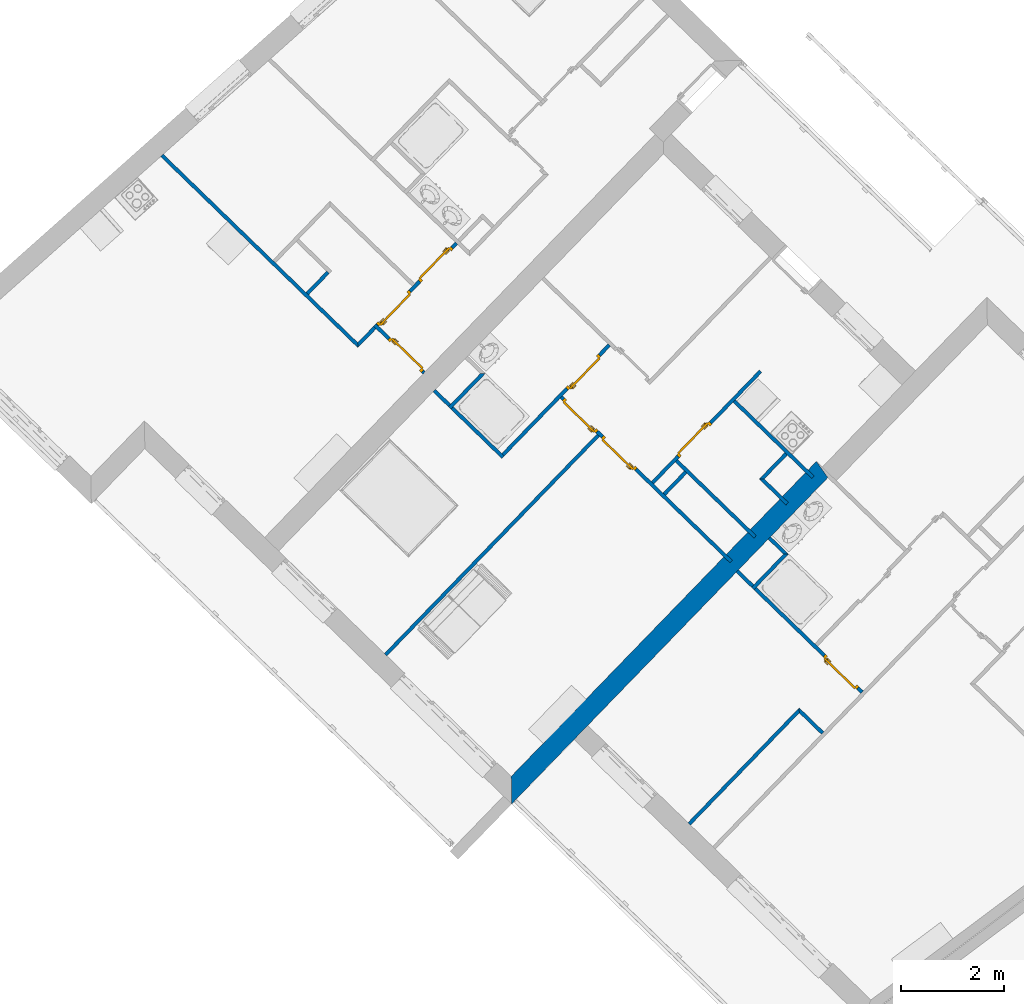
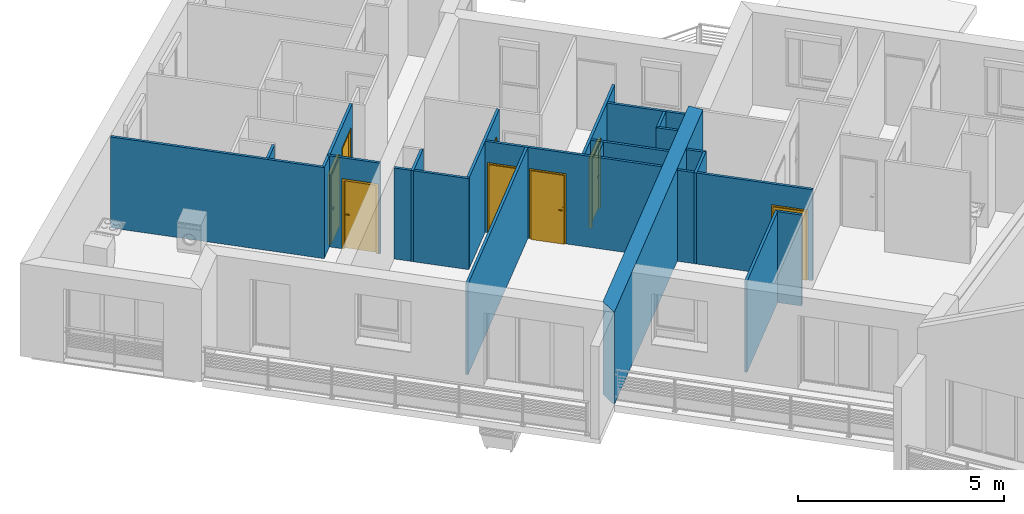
# One storey, part 12 of 121: 21 walls, 8 doors, 8 openings.
"""IFC2X3 building model written with IfcOpenShell, lengths in metres."""

from ifc_helpers import new_model, entity, si_unit, converted_unit, derived_unit, money_unit, direction, frame, origin_with_axes, origin_2d_with_axis, place, context, subcontext, project, spatial, polyline, rectangle, outline, extrude, faceted_brep, source, transform, mapped, material, layer, layer_set, layer_usage, type_object, element, fill, save


model = new_model("IFC2X3")

# Units and contexts
model_context = context("Model", 3, precision=1e-05, world=origin_with_axes(), true_north=direction((0.0, 1.0)))
body_context = subcontext(model_context, "Body", "Model", "MODEL_VIEW")
ifc_project = project(units=[si_unit("LENGTHUNIT", "METRE"), si_unit("AREAUNIT", "SQUARE_METRE"), si_unit("VOLUMEUNIT", "CUBIC_METRE"), converted_unit("PLANEANGLEUNIT", "DEGREE", entity("IfcPlaneAngleMeasure", 0.0174532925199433), si_unit("PLANEANGLEUNIT", "RADIAN"), dimensions=[0, 0, 0, 0, 0, 0, 0]), money_unit("CHF"), converted_unit("TIMEUNIT", "Year", entity("IfcTimeMeasure", 31557600.0), si_unit("TIMEUNIT", "SECOND"), dimensions=[0, 0, 1, 0, 0, 0, 0]), si_unit("MASSUNIT", "GRAM", prefix="KILO"), si_unit("THERMODYNAMICTEMPERATUREUNIT", "DEGREE_CELSIUS"), si_unit("LUMINOUSINTENSITYUNIT", "LUMEN"), si_unit("ENERGYUNIT", "JOULE", prefix="MEGA"), derived_unit("THERMALCONDUCTANCEUNIT", [(si_unit("POWERUNIT", "WATT"), 1), (si_unit("LENGTHUNIT", "METRE"), -1), (si_unit("THERMODYNAMICTEMPERATUREUNIT", "KELVIN"), -1)]), derived_unit("SPECIFICHEATCAPACITYUNIT", [(si_unit("ENERGYUNIT", "JOULE"), 1), (si_unit("MASSUNIT", "GRAM", prefix="KILO"), -1), (si_unit("THERMODYNAMICTEMPERATUREUNIT", "KELVIN"), -1)]), derived_unit("MASSDENSITYUNIT", [(si_unit("MASSUNIT", "GRAM", prefix="KILO"), 1), (si_unit("VOLUMEUNIT", "CUBIC_METRE"), -1)])], contexts=[model_context])

# Site, building, storey
site_placement = place(None, origin_with_axes())
site = spatial("IfcSite", under=ifc_project, at=site_placement, Name="Site", CompositionType="ELEMENT")
building_placement = place(site_placement, origin_with_axes())
building = spatial("IfcBuilding", under=site, at=building_placement, Name="Bâtiment", CompositionType="ELEMENT")
storey_placement = place(building_placement, frame((0.0, 0.0, 2.75), z_axis=(0.0, 0.0, 1.0), x_axis=(1.0, 0.0, 0.0)))
storey = spatial("IfcBuildingStorey", under=building, at=storey_placement, Name="Etage 1", CompositionType="ELEMENT", Elevation=2.75)

# Wall, opening, door
ifc_material_1 = material(Name="Hachure solide 268963992")
ifc_layer_1 = layer(ifc_material_1, 0.07, ventilated="UNKNOWN")
ifc_layer_set_1 = layer_set([ifc_layer_1], Name="Cloison 70 0826278243")
ifc_layer_usage_1 = layer_usage(ifc_layer_set_1, "AXIS2", "POSITIVE", 0.0)
wall_type_1 = type_object("IfcWallType", Name="Cloison 70 0826278243 70", PredefinedType="NOTDEFINED")
wall_1_placement = place(storey_placement, frame((9521.042866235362, -1063.008777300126, 57.7), z_axis=(0.0, 0.0, 1.0), x_axis=(-0.7181763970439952, 0.6958610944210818, 0.0)))
wall_1 = element("IfcWallStandardCase", 1, at=wall_1_placement, inside=storey, type_object=wall_type_1, material=ifc_layer_usage_1, Name="Mur-149", context=body_context, shape_type="SweptSolid", body=[
    extrude(outline(polyline([(-2.791011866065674e-10, 0.0), (1.340122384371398, 0.0), (1.340122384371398, 0.06999999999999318), (-2.737579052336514e-10, 0.06999999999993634), (-2.791011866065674e-10, 0.0)])), origin_with_axes(), (0.0, 0.0, 1.0), 2.7),
])
opening_1_placement = place(wall_1_placement, frame((0.5005577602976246, 0.0, 0.0), z_axis=(0.0, 0.0, 1.0), x_axis=(1.0, 0.0, 0.0)))
opening_1 = element("IfcOpeningElement", 2, at=opening_1_placement, cuts=wall_1, Name="Por-309", context=body_context, shape_type="SweptSolid", body=[
    extrude(rectangle(XDim=0.9099999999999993, YDim=2.079999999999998, at=origin_2d_with_axis()), frame((0.0, 0.06999999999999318, 1.039999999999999), z_axis=(0.0, -1.0, 0.0), x_axis=(-1.0, 0.0, 0.0)), (0.0, 0.0, 1.0), 0.14),
])
door_style = type_object("IfcDoorStyle", Name="Porte_1v", ConstructionType="NOTDEFINED", OperationType="NOTDEFINED", ParameterTakesPrecedence=False, Sizeable=False)
shared_shape_1 = source(origin_with_axes(), body_context, "Body", "Brep", [
    faceted_brep([(0.455, 0.0, 0.0), (0.415, 0.0, 0.0), (0.415, 0.0, 2.04), (-0.415, 0.0, 2.04), (-0.415, 0.0, 0.0), (-0.455, 0.0, 0.0), (-0.455, 0.0, 2.08), (0.455, 0.0, 2.08), (0.455, -0.07, 0.0), (0.4, -0.07, 0.0), (0.4, -0.015, 0.0), (0.415, -0.015, 0.0), (0.415, -0.015, 2.04), (-0.415, -0.015, 2.04), (-0.415, -0.015, 0.0), (-0.4, -0.015, 0.0), (-0.4, -0.07, 0.0), (-0.455, -0.07, 0.0), (-0.455, -0.07, 2.08), (0.455, -0.07, 2.08), (-0.4, -0.07, 2.025), (0.4, -0.07, 2.025), (0.4, -0.015, 2.025), (-0.4, -0.015, 2.025)], [[[0, 1, 2, 3, 4, 5, 6, 7]], [[0, 8, 9, 10, 11, 1]], [[1, 11, 12, 2]], [[2, 12, 13, 3]], [[3, 13, 14, 4]], [[5, 4, 14, 15, 16, 17]], [[18, 6, 5, 17]], [[19, 7, 6, 18]], [[8, 0, 7, 19]], [[9, 8, 19, 18, 17, 16, 20, 21]], [[10, 9, 21, 22]], [[11, 10, 22, 23, 15, 14, 13, 12]], [[23, 20, 16, 15]], [[22, 21, 20, 23]]]),
    faceted_brep([(-0.35, -0.015, 0.9), (-0.39, -0.015, 0.9), (-0.39, -0.015, 1.1), (-0.35, -0.015, 1.1), (-0.35, -0.025, 0.9), (-0.39, -0.025, 0.9), (-0.39, -0.025, 1.1), (-0.35, -0.025, 1.1)], [[[0, 1, 2, 3]], [[1, 0, 4, 5]], [[2, 1, 5, 6]], [[3, 2, 6, 7]], [[0, 3, 7, 4]], [[5, 4, 7, 6]]]),
    faceted_brep([(-0.28, -0.025, 1.0), (-0.38, -0.025, 1.0), (-0.38, -0.025, 1.02), (-0.28, -0.025, 1.02), (-0.28, -0.045, 1.0), (-0.38, -0.045, 1.0), (-0.38, -0.045, 1.02), (-0.28, -0.045, 1.02)], [[[0, 1, 2, 3]], [[1, 0, 4, 5]], [[2, 1, 5, 6]], [[3, 2, 6, 7]], [[0, 3, 7, 4]], [[5, 4, 7, 6]]]),
    faceted_brep([(-0.35, 0.035, 0.9), (-0.39, 0.035, 0.9), (-0.39, 0.035, 1.1), (-0.35, 0.035, 1.1), (-0.35, 0.025, 0.9), (-0.39, 0.025, 0.9), (-0.39, 0.025, 1.1), (-0.35, 0.025, 1.1)], [[[0, 1, 2, 3]], [[1, 0, 4, 5]], [[2, 1, 5, 6]], [[3, 2, 6, 7]], [[0, 3, 7, 4]], [[5, 4, 7, 6]]]),
    faceted_brep([(-0.28, 0.05500000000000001, 1.0), (-0.38, 0.05500000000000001, 1.0), (-0.38, 0.05500000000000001, 1.02), (-0.28, 0.05500000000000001, 1.02), (-0.28, 0.035, 1.0), (-0.38, 0.035, 1.0), (-0.38, 0.035, 1.02), (-0.28, 0.035, 1.02)], [[[0, 1, 2, 3]], [[1, 0, 4, 5]], [[2, 1, 5, 6]], [[3, 2, 6, 7]], [[0, 3, 7, 4]], [[5, 4, 7, 6]]]),
    faceted_brep([(-0.415, 0.025, 0.0), (0.415, 0.025, 0.0), (0.415, -0.015, 0.0), (-0.415, -0.015, 0.0), (-0.415, 0.025, 2.04), (0.415, 0.025, 2.04), (0.415, -0.015, 2.04), (-0.415, -0.015, 2.04)], [[[0, 1, 2, 3]], [[0, 4, 5, 1]], [[1, 5, 6, 2]], [[3, 2, 6, 7]], [[4, 0, 3, 7]], [[5, 4, 7, 6]]]),
])
door_1_placement = place(opening_1_placement, frame((0.415000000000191, 0.0, 0.0), z_axis=(0.0, 0.0, 1.0), x_axis=(-1.0, 0.0, 0.0)))
door_1 = element("IfcDoor", 3, at=door_1_placement, inside=storey, type_object=door_style, Name="Por-309", OverallHeight=2.04, OverallWidth=0.83, context=body_context, shape_type="MappedRepresentation", body=[
    mapped(shared_shape_1, transform((0.415000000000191, 0.0, 0.0))),
])
fill(opening_1, door_1)

# Walls
ifc_layer_usage_2 = layer_usage(ifc_layer_set_1, "AXIS2", "POSITIVE", 0.0)
wall_2_placement = place(storey_placement, frame((9522.11450940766, -1063.048129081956, 57.7), z_axis=(0.0, 0.0, 1.0), x_axis=(-0.6958610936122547, -0.7181763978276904, 0.0)))
element("IfcWallStandardCase", 4, at=wall_2_placement, inside=storey, type_object=wall_type_1, material=ifc_layer_usage_2, Name="Mur-149", context=body_context, shape_type="SweptSolid", body=[
    extrude(outline(polyline([(1.618900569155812e-10, 0.0), (0.9000166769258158, 0.0), (0.9000166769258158, 0.07000000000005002), (-0.06999999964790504, 0.07000000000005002), (1.618900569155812e-10, 0.0)])), origin_with_axes(), (0.0, 0.0, 1.0), 2.7),
])
ifc_layer_usage_3 = layer_usage(ifc_layer_set_1, "AXIS2", "POSITIVE", 0.0)
wall_3_placement = place(storey_placement, frame((9527.494752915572, -1066.208275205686, 57.7), z_axis=(0.0, 0.0, 1.0), x_axis=(-0.7181763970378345, 0.6958610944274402, 0.0)))
element("IfcWallStandardCase", 5, at=wall_3_placement, inside=storey, type_object=wall_type_1, material=ifc_layer_usage_3, Name="Mur-149", context=body_context, shape_type="SweptSolid", body=[
    extrude(outline(polyline([(0.0, 0.0), (2.135506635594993, 0.0), (2.13550663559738, 0.06999999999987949), (0.0, 0.06999999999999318), (0.0, 0.0)])), origin_with_axes(), (0.0, 0.0, 1.0), 2.7),
])
ifc_layer_usage_4 = layer_usage(ifc_layer_set_1, "AXIS2", "POSITIVE", 0.0)
wall_4_placement = place(storey_placement, frame((9526.140626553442, -1064.896224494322, 57.7), z_axis=(0.0, 0.0, 1.0), x_axis=(-0.6958610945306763, -0.7181763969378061, 0.0)))
element("IfcWallStandardCase", 6, at=wall_4_placement, inside=storey, type_object=wall_type_1, material=ifc_layer_usage_4, Name="Mur-149", context=body_context, shape_type="SweptSolid", body=[
    extrude(outline(polyline([(0.07000000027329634, 0.0), (0.670000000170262, 0.0), (0.6700000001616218, 0.07000000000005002), (0.07000000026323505, 0.07000000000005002), (0.07000000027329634, 0.0)])), origin_with_axes(), (0.0, 0.0, 1.0), 2.7),
])
ifc_layer_usage_5 = layer_usage(ifc_layer_set_1, "AXIS2", "POSITIVE", 0.0)
wall_5_placement = place(storey_placement, frame((9522.580226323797, -1064.655080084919, 57.7), z_axis=(0.0, 0.0, 1.0), x_axis=(-0.718176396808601, 0.6958610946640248, 0.0)))
element("IfcWallStandardCase", 7, at=wall_5_placement, inside=storey, type_object=wall_type_1, material=ifc_layer_usage_5, Name="Mur-149", context=body_context, shape_type="SweptSolid", body=[
    extrude(outline(polyline([(0.0, 0.0), (1.869694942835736, 0.0), (1.869694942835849, 0.06999999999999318), (0.0, 0.06999999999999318), (0.0, 0.0)])), origin_with_axes(), (0.0, 0.0, 1.0), 2.7),
])

# Wall, openings, doors
ifc_layer_usage_6 = layer_usage(ifc_layer_set_1, "AXIS2", "POSITIVE", 0.0)
wall_6_placement = place(storey_placement, frame((9527.028525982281, -1066.689453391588, 57.7), z_axis=(0.0, 0.0, 1.0), x_axis=(-0.7181763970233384, 0.6958610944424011, 0.0)))
wall_6 = element("IfcWallStandardCase", 8, at=wall_6_placement, inside=storey, type_object=wall_type_1, material=ifc_layer_usage_6, Name="Mur-149", context=body_context, shape_type="SweptSolid", body=[
    extrude(outline(polyline([(0.0, 0.0), (4.682283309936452, 0.0), (4.682283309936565, 0.07000000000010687), (0.0, 0.06999999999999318), (0.0, 0.0)])), origin_with_axes(), (0.0, 0.0, 1.0), 2.7),
])
opening_2_placement = place(wall_6_placement, frame((4.093552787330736, 0.0, 0.0), z_axis=(0.0, 0.0, 1.0), x_axis=(1.0, 0.0, 0.0)))
opening_2 = element("IfcOpeningElement", 9, at=opening_2_placement, cuts=wall_6, Name="Por-310", context=body_context, shape_type="SweptSolid", body=[
    extrude(rectangle(XDim=0.9099999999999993, YDim=2.079999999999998, at=origin_2d_with_axis()), frame((0.0, -0.07000000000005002, 1.039999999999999), z_axis=(0.0, 1.0, 0.0), x_axis=(1.0, 0.0, 0.0)), (0.0, 0.0, 1.0), 0.14),
])
opening_3_placement = place(wall_6_placement, frame((3.043617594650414, 0.0, 0.0), z_axis=(0.0, 0.0, 1.0), x_axis=(1.0, 0.0, 0.0)))
opening_3 = element("IfcOpeningElement", 10, at=opening_3_placement, cuts=wall_6, Name="Por-310", context=body_context, shape_type="SweptSolid", body=[
    extrude(rectangle(XDim=0.9099999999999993, YDim=2.079999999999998, at=origin_2d_with_axis()), frame((0.0, -0.07000000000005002, 1.039999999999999), z_axis=(0.0, 1.0, 0.0), x_axis=(1.0, 0.0, 0.0)), (0.0, 0.0, 1.0), 0.14),
])
door_2_placement = place(opening_3_placement, frame((-0.4149999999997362, 0.0, 0.0), z_axis=(0.0, 0.0, 1.0), x_axis=(1.0, 0.0, 0.0)))
door_2 = element("IfcDoor", 11, at=door_2_placement, inside=storey, type_object=door_style, Name="Por-310", OverallHeight=2.04, OverallWidth=0.83, context=body_context, shape_type="MappedRepresentation", body=[
    mapped(shared_shape_1, transform((0.4150000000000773, 0.07000000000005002, 0.0))),
])
fill(opening_3, door_2)
door_3_placement = place(opening_2_placement, frame((-0.4149999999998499, 0.0, 0.0), z_axis=(0.0, 0.0, 1.0), x_axis=(1.0, 0.0, 0.0)))
door_3 = element("IfcDoor", 12, at=door_3_placement, inside=storey, type_object=door_style, Name="Por-310", OverallHeight=2.04, OverallWidth=0.83, context=body_context, shape_type="MappedRepresentation", body=[
    mapped(shared_shape_1, transform((0.4149999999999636, 0.06999999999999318, 0.0))),
])
fill(opening_2, door_3)

# Wall
ifc_layer_usage_7 = layer_usage(ifc_layer_set_1, "AXIS2", "POSITIVE", 0.0)
wall_7_placement = place(storey_placement, frame((9528.09928202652, -1064.538307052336, 57.7), z_axis=(0.0, 0.0, 1.0), x_axis=(-0.695861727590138, -0.7181757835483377, 0.0)))
element("IfcWallStandardCase", 13, at=wall_7_placement, inside=storey, type_object=wall_type_1, material=ifc_layer_usage_7, Name="Mur-149", context=body_context, shape_type="SweptSolid", body=[
    extrude(outline(polyline([(0.07000000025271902, 0.0), (0.7890858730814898, 0.0), (0.7190858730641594, 0.07000000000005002), (0.06999993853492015, 0.07000000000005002), (0.07000000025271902, 0.0)])), origin_with_axes(), (0.0, 0.0, 1.0), 2.7),
])

# Wall, openings, doors
ifc_layer_usage_8 = layer_usage(ifc_layer_set_1, "AXIS2", "POSITIVE", 0.0)
wall_8_placement = place(storey_placement, frame((9519.773051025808, -1062.494060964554, 57.7), z_axis=(0.0, 0.0, 1.0), x_axis=(0.69586109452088, 0.7181763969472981, 0.0)))
wall_8 = element("IfcWallStandardCase", 14, at=wall_8_placement, inside=storey, type_object=wall_type_1, material=ifc_layer_usage_8, Name="Mur-149", context=body_context, shape_type="SweptSolid", body=[
    extrude(outline(polyline([(-0.06999999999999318, 0.0), (2.729999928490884, 0.0), (2.729999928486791, 0.06999999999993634), (-9.135874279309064e-10, 0.06999999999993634), (-0.06999999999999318, 0.0)])), origin_with_axes(), (0.0, 0.0, 1.0), 2.7),
])
opening_4_placement = place(wall_8_placement, frame((0.9704286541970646, 0.0, 0.0), z_axis=(0.0, 0.0, 1.0), x_axis=(1.0, 0.0, 0.0)))
opening_4 = element("IfcOpeningElement", 15, at=opening_4_placement, cuts=wall_8, Name="Por-308", context=body_context, shape_type="SweptSolid", body=[
    extrude(rectangle(XDim=0.9099999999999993, YDim=2.079999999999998, at=origin_2d_with_axis()), frame((0.0, 0.06999999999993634, 1.039999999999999), z_axis=(0.0, 1.0, 0.0), x_axis=(1.0, 0.0, 0.0)), (0.0, 0.0, -1.0), 0.14),
])
opening_5_placement = place(wall_8_placement, frame((2.150722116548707, 0.0, 0.0), z_axis=(0.0, 0.0, 1.0), x_axis=(1.0, 0.0, 0.0)))
opening_5 = element("IfcOpeningElement", 16, at=opening_5_placement, cuts=wall_8, Name="Por-308", context=body_context, shape_type="SweptSolid", body=[
    extrude(rectangle(XDim=0.9099999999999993, YDim=2.079999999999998, at=origin_2d_with_axis()), frame((0.0, -0.07000000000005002, 1.039999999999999), z_axis=(0.0, -1.0, 0.0), x_axis=(-1.0, 0.0, 0.0)), (0.0, 0.0, -1.0), 0.14),
])
shared_shape_2 = source(origin_with_axes(), body_context, "Body", "Brep", [
    faceted_brep([(-0.455, 0.0, 0.0), (-0.455, 0.0, 2.08), (0.455, 0.0, 2.08), (0.455, 0.0, 0.0), (0.415, 0.0, 0.0), (0.415, 0.0, 2.04), (-0.415, 0.0, 2.04), (-0.415, 0.0, 0.0), (-0.455, -0.07, 0.0), (-0.455, -0.07, 2.08), (0.455, -0.07, 2.08), (0.455, -0.07, 0.0), (0.4, -0.07, 0.0), (0.4, -0.015, 0.0), (0.415, -0.015, 0.0), (0.415, -0.015, 2.04), (-0.415, -0.015, 2.04), (-0.415, -0.015, 0.0), (-0.4, -0.015, 0.0), (-0.4, -0.07, 0.0), (-0.4, -0.07, 2.025), (0.4, -0.07, 2.025), (0.4, -0.015, 2.025), (-0.4, -0.015, 2.025)], [[[0, 1, 2, 3, 4, 5, 6, 7]], [[8, 9, 1, 0]], [[9, 10, 2, 1]], [[10, 11, 3, 2]], [[3, 11, 12, 13, 14, 4]], [[5, 4, 14, 15]], [[6, 5, 15, 16]], [[7, 6, 16, 17]], [[0, 7, 17, 18, 19, 8]], [[19, 20, 21, 12, 11, 10, 9, 8]], [[22, 13, 12, 21]], [[17, 16, 15, 14, 13, 22, 23, 18]], [[18, 23, 20, 19]], [[23, 22, 21, 20]]]),
    faceted_brep([(0.35, -0.015, 0.9), (0.35, -0.015, 1.1), (0.39, -0.015, 1.1), (0.39, -0.015, 0.9), (0.35, -0.025, 0.9), (0.35, -0.025, 1.1), (0.39, -0.025, 1.1), (0.39, -0.025, 0.9)], [[[0, 1, 2, 3]], [[0, 4, 5, 1]], [[1, 5, 6, 2]], [[2, 6, 7, 3]], [[3, 7, 4, 0]], [[7, 6, 5, 4]]]),
    faceted_brep([(0.28, -0.025, 1.0), (0.28, -0.025, 1.02), (0.38, -0.025, 1.02), (0.38, -0.025, 1.0), (0.28, -0.045, 1.0), (0.28, -0.045, 1.02), (0.38, -0.045, 1.02), (0.38, -0.045, 1.0)], [[[0, 1, 2, 3]], [[0, 4, 5, 1]], [[1, 5, 6, 2]], [[2, 6, 7, 3]], [[3, 7, 4, 0]], [[7, 6, 5, 4]]]),
    faceted_brep([(0.35, 0.035, 0.9), (0.35, 0.035, 1.1), (0.39, 0.035, 1.1), (0.39, 0.035, 0.9), (0.35, 0.025, 0.9), (0.35, 0.025, 1.1), (0.39, 0.025, 1.1), (0.39, 0.025, 0.9)], [[[0, 1, 2, 3]], [[0, 4, 5, 1]], [[1, 5, 6, 2]], [[2, 6, 7, 3]], [[3, 7, 4, 0]], [[7, 6, 5, 4]]]),
    faceted_brep([(0.28, 0.05500000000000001, 1.0), (0.28, 0.05500000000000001, 1.02), (0.38, 0.05500000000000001, 1.02), (0.38, 0.05500000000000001, 1.0), (0.28, 0.035, 1.0), (0.28, 0.035, 1.02), (0.38, 0.035, 1.02), (0.38, 0.035, 1.0)], [[[0, 1, 2, 3]], [[0, 4, 5, 1]], [[1, 5, 6, 2]], [[2, 6, 7, 3]], [[3, 7, 4, 0]], [[7, 6, 5, 4]]]),
    faceted_brep([(0.415, 0.025, 0.0), (0.415, -0.015, 0.0), (-0.415, -0.015, 0.0), (-0.415, 0.025, 0.0), (0.415, 0.025, 2.04), (0.415, -0.015, 2.04), (-0.415, -0.015, 2.04), (-0.415, 0.025, 2.04)], [[[0, 1, 2, 3]], [[4, 5, 1, 0]], [[1, 5, 6, 2]], [[3, 2, 6, 7]], [[0, 3, 7, 4]], [[7, 6, 5, 4]]]),
])
door_4_placement = place(opening_4_placement, frame((0.4149999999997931, 0.0, 0.0), z_axis=(0.0, 0.0, 1.0), x_axis=(-1.0, 0.0, 0.0)))
door_4 = element("IfcDoor", 17, at=door_4_placement, inside=storey, type_object=door_style, Name="Por-308", OverallHeight=2.04, OverallWidth=0.83, context=body_context, shape_type="MappedRepresentation", body=[
    mapped(shared_shape_2, transform((0.4150000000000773, 0.0, 0.0))),
])
fill(opening_4, door_4)
door_5_placement = place(opening_5_placement, frame((-0.4149999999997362, 0.0, 0.0), z_axis=(0.0, 0.0, 1.0), x_axis=(1.0, 0.0, 0.0)))
door_5 = element("IfcDoor", 18, at=door_5_placement, inside=storey, type_object=door_style, Name="Por-308", OverallHeight=2.04, OverallWidth=0.83, context=body_context, shape_type="MappedRepresentation", body=[
    mapped(shared_shape_2, transform((0.4150000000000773, 0.07000000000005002, 0.0))),
])
fill(opening_5, door_5)

# Walls
ifc_layer_usage_9 = layer_usage(ifc_layer_set_1, "AXIS2", "POSITIVE", 0.0)
wall_9_placement = place(storey_placement, frame((9519.773051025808, -1062.494060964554, 57.7), z_axis=(0.0, 0.0, 1.0), x_axis=(-0.7181764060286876, 0.6958610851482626, 0.0)))
element("IfcWallStandardCase", 19, at=wall_9_placement, inside=storey, type_object=wall_type_1, material=ifc_layer_usage_9, Name="Mur-149", context=body_context, shape_type="SweptSolid", body=[
    extrude(outline(polyline([(0.07000000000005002, 0.0), (5.349643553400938, 0.0), (5.354833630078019, 0.07000000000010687), (9.135874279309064e-10, 0.07000000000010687), (0.07000000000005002, 0.0)])), origin_with_axes(), (0.0, 0.0, 1.0), 2.7),
])
ifc_layer_usage_10 = layer_usage(ifc_layer_set_1, "AXIS2", "POSITIVE", 0.0)
wall_10_placement = place(storey_placement, frame((9519.16531050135, -1061.001407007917, 57.7), z_axis=(0.0, 0.0, 1.0), x_axis=(-0.6958610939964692, -0.7181763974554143, 0.0)))
element("IfcWallStandardCase", 20, at=wall_10_placement, inside=storey, type_object=wall_type_1, material=ifc_layer_usage_10, Name="Mur-149", context=body_context, shape_type="SweptSolid", body=[
    extrude(outline(polyline([(0.07000000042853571, 0.0), (0.6490858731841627, 0.0), (0.6490858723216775, 0.07000000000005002), (0.07000000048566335, 0.07000000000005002), (0.07000000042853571, 0.0)])), origin_with_axes(), (0.0, 0.0, 1.0), 2.7),
])
ifc_layer_usage_11 = layer_usage(ifc_layer_set_1, "AXIS2", "POSITIVE", 0.0)
wall_11_placement = place(storey_placement, frame((9528.121663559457, -1065.561260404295, 57.7), z_axis=(0.0, 0.0, 1.0), x_axis=(-0.718175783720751, 0.6958617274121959, 0.0)))
element("IfcWallStandardCase", 21, at=wall_11_placement, inside=storey, type_object=wall_type_1, material=ifc_layer_usage_11, Name="Mur-149", context=body_context, shape_type="SweptSolid", body=[
    extrude(outline(polyline([(0.0, 0.0), (0.6579079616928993, 0.0), (0.7279079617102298, 0.06999999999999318), (0.0, 0.07000000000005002), (0.0, 0.0)])), origin_with_axes(), (0.0, 0.0, 1.0), 2.7),
])

# Wall, opening, door
ifc_layer_usage_12 = layer_usage(ifc_layer_set_1, "AXIS2", "POSITIVE", 0.0)
wall_12_placement = place(storey_placement, frame((9527.551588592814, -1062.980152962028, 57.7), z_axis=(0.0, 0.0, 1.0), x_axis=(-0.6958610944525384, -0.7181763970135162, 0.0)))
wall_12 = element("IfcWallStandardCase", 22, at=wall_12_placement, inside=storey, type_object=wall_type_1, material=ifc_layer_usage_12, Name="Mur-149", context=body_context, shape_type="SweptSolid", body=[
    extrude(outline(polyline([(0.0, 0.0), (3.027910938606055, 0.0), (3.027910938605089, 0.07000000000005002), (0.0, 0.06999999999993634), (0.0, 0.0)])), origin_with_axes(), (0.0, 0.0, 1.0), 2.7),
])
opening_6_placement = place(wall_12_placement, frame((1.855514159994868, 0.0, 0.0), z_axis=(0.0, 0.0, 1.0), x_axis=(1.0, 0.0, 0.0)))
opening_6 = element("IfcOpeningElement", 23, at=opening_6_placement, cuts=wall_12, Name="Por-309", context=body_context, shape_type="SweptSolid", body=[
    extrude(rectangle(XDim=0.9099999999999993, YDim=2.079999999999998, at=origin_2d_with_axis()), frame((0.0, 0.07000000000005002, 1.039999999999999), z_axis=(0.0, 1.0, 0.0), x_axis=(1.0, 0.0, 0.0)), (0.0, 0.0, -1.0), 0.14),
])
door_6_placement = place(opening_6_placement, frame((0.4150000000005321, 0.0, 0.0), z_axis=(0.0, 0.0, 1.0), x_axis=(-1.0, 0.0, 0.0)))
door_6 = element("IfcDoor", 24, at=door_6_placement, inside=storey, type_object=door_style, Name="Por-309", OverallHeight=2.04, OverallWidth=0.83, context=body_context, shape_type="MappedRepresentation", body=[
    mapped(shared_shape_2, transform((0.4150000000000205, 0.0, 0.0))),
])
fill(opening_6, door_6)

ifc_layer_usage_13 = layer_usage(ifc_layer_set_1, "AXIS2", "POSITIVE", 0.0)
wall_13_placement = place(storey_placement, frame((9524.649783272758, -1062.418560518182, 57.7), z_axis=(0.0, 0.0, 1.0), x_axis=(-0.6958610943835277, -0.7181763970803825, 0.0)))
wall_13 = element("IfcWallStandardCase", 25, at=wall_13_placement, inside=storey, type_object=wall_type_1, material=ifc_layer_usage_13, Name="Mur-149", context=body_context, shape_type="SweptSolid", body=[
    extrude(outline(polyline([(0.069999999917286, 0.0), (3.116339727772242, 0.0), (3.116339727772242, 0.06999999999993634), (0.06999999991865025, 0.06999999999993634), (0.069999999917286, 0.0)])), origin_with_axes(), (0.0, 0.0, 1.0), 2.7),
])
opening_7_placement = place(wall_13_placement, frame((0.8014247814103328, 0.0, 0.0), z_axis=(0.0, 0.0, 1.0), x_axis=(1.0, 0.0, 0.0)))
opening_7 = element("IfcOpeningElement", 26, at=opening_7_placement, cuts=wall_13, Name="Por-311", context=body_context, shape_type="SweptSolid", body=[
    extrude(rectangle(XDim=0.9099999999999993, YDim=2.079999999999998, at=origin_2d_with_axis()), frame((0.0, -0.07000000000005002, 1.039999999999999), z_axis=(0.0, -1.0, 0.0), x_axis=(-1.0, 0.0, 0.0)), (0.0, 0.0, -1.0), 0.14),
])
door_7_placement = place(opening_7_placement, frame((-0.4150000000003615, 0.0, 0.0), z_axis=(0.0, 0.0, 1.0), x_axis=(1.0, 0.0, 0.0)))
door_7 = element("IfcDoor", 27, at=door_7_placement, inside=storey, type_object=door_style, Name="Por-311", OverallHeight=2.04, OverallWidth=0.83, context=body_context, shape_type="MappedRepresentation", body=[
    mapped(shared_shape_2, transform((0.4149999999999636, 0.07000000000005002, 0.0))),
])
fill(opening_7, door_7)

# Walls
ifc_layer_usage_14 = layer_usage(ifc_layer_set_1, "AXIS2", "POSITIVE", 0.0)
wall_14_placement = place(storey_placement, frame((9528.811143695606, -1070.03194576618, 57.7), z_axis=(0.0, 0.0, 1.0), x_axis=(-0.7181763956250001, 0.6958610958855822, 0.0)))
element("IfcWallStandardCase", 28, at=wall_14_placement, inside=storey, type_object=wall_type_1, material=ifc_layer_usage_14, Name="Mur-149", context=body_context, shape_type="SweptSolid", body=[
    extrude(outline(polyline([(0.0, 0.0), (0.6700000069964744, 0.0), (0.6000000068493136, 0.06999999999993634), (0.0, 0.07000000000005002), (0.0, 0.0)])), origin_with_axes(), (0.0, 0.0, 1.0), 2.7),
])
ifc_layer_usage_15 = layer_usage(ifc_layer_set_1, "AXIS2", "POSITIVE", 0.0)
wall_15_placement = place(storey_placement, frame((9528.023286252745, -1066.569595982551, 57.7), z_axis=(0.0, 0.0, 1.0), x_axis=(-0.6958610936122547, -0.7181763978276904, 0.0)))
element("IfcWallStandardCase", 29, at=wall_15_placement, inside=storey, type_object=wall_type_1, material=ifc_layer_usage_15, Name="Mur-149", context=body_context, shape_type="SweptSolid", body=[
    extrude(outline(polyline([(0.0, 0.0), (0.9000166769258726, 0.0), (0.9000166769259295, 0.06999999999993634), (-0.06999999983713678, 0.06999999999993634), (0.0, 0.0)])), origin_with_axes(), (0.0, 0.0, 1.0), 2.7),
])
ifc_layer_usage_16 = layer_usage(ifc_layer_set_1, "AXIS2", "POSITIVE", 0.0)
wall_16_placement = place(storey_placement, frame((9524.43583460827, -1064.177322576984, 57.7), z_axis=(0.0, 0.0, 1.0), x_axis=(-0.6958610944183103, -0.7181763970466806, 0.0)))
element("IfcWallStandardCase", 30, at=wall_16_placement, inside=storey, type_object=wall_type_1, material=ifc_layer_usage_16, Name="Mur-149", context=body_context, shape_type="SweptSolid", body=[
    extrude(outline(polyline([(0.07000000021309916, 0.0), (6.02714767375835, 0.0), (6.027147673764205, 0.06999999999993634), (0.07000000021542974, 0.06999999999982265), (0.07000000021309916, 0.0)])), origin_with_axes(), (0.0, 0.0, 1.0), 2.7),
])
ifc_layer_usage_17 = layer_usage(ifc_layer_set_1, "AXIS2", "POSITIVE", 0.0)
wall_17_placement = place(storey_placement, frame((9528.622047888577, -1065.044829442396, 57.7), z_axis=(0.0, 0.0, 1.0), x_axis=(-0.7181763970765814, 0.6958610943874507, 0.0)))
element("IfcWallStandardCase", 31, at=wall_17_placement, inside=storey, type_object=wall_type_1, material=ifc_layer_usage_17, Name="Mur-149", context=body_context, shape_type="SweptSolid", body=[
    extrude(outline(polyline([(0.0, 0.0), (2.135506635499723, 0.0), (2.13550663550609, 0.07000000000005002), (0.0, 0.06999999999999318), (0.0, 0.0)])), origin_with_axes(), (0.0, 0.0, 1.0), 2.7),
])

# Wall, opening, door
ifc_layer_usage_18 = layer_usage(ifc_layer_set_1, "AXIS2", "POSITIVE", 0.0)
wall_18_placement = place(storey_placement, frame((9527.097522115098, -1066.925771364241, 57.7), z_axis=(0.0, 0.0, 1.0), x_axis=(0.718176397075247, -0.6958610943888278, 0.0)))
wall_18 = element("IfcWallStandardCase", 32, at=wall_18_placement, inside=storey, type_object=wall_type_1, material=ifc_layer_usage_18, Name="Mur-149", context=body_context, shape_type="SweptSolid", body=[
    extrude(outline(polyline([(-1.222133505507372e-10, 0.0), (3.392148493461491, 0.0), (3.392148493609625, 0.07000000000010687), (-1.112994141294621e-10, 0.07000000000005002), (-1.222133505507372e-10, 0.0)])), origin_with_axes(), (0.0, 0.0, 1.0), 2.7),
])
opening_8_placement = place(wall_18_placement, frame((2.821361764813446, 0.0, 0.0), z_axis=(0.0, 0.0, 1.0), x_axis=(1.0, 0.0, 0.0)))
opening_8 = element("IfcOpeningElement", 33, at=opening_8_placement, cuts=wall_18, Name="Por-313", context=body_context, shape_type="SweptSolid", body=[
    extrude(rectangle(XDim=0.9099999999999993, YDim=2.079999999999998, at=origin_2d_with_axis()), frame((0.0, 0.06999999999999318, 1.039999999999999), z_axis=(0.0, 1.0, 0.0), x_axis=(1.0, 0.0, 0.0)), (0.0, 0.0, -1.0), 0.14),
])
door_8_placement = place(opening_8_placement, frame((0.4149999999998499, 0.0, 0.0), z_axis=(0.0, 0.0, 1.0), x_axis=(-1.0, 0.0, 0.0)))
door_8 = element("IfcDoor", 34, at=door_8_placement, inside=storey, type_object=door_style, Name="Por-313", OverallHeight=2.04, OverallWidth=0.83, context=body_context, shape_type="MappedRepresentation", body=[
    mapped(shared_shape_2, transform((0.415000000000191, 0.0, 0.0))),
])
fill(opening_8, door_8)

# Walls
ifc_layer_usage_19 = layer_usage(ifc_layer_set_1, "AXIS2", "POSITIVE", 0.0)
wall_19_placement = place(storey_placement, frame((9528.329965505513, -1069.565718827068, 57.7), z_axis=(0.0, 0.0, 1.0), x_axis=(-0.6958610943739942, -0.7181763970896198, 0.0)))
element("IfcWallStandardCase", 35, at=wall_19_placement, inside=storey, type_object=wall_type_1, material=ifc_layer_usage_19, Name="Mur-149", context=body_context, shape_type="SweptSolid", body=[
    extrude(outline(polyline([(0.0, 0.0), (3.116977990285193, 0.0), (3.116977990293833, 0.06999999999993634), (0.07000000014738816, 0.07000000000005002), (0.0, 0.0)])), origin_with_axes(), (0.0, 0.0, 1.0), 2.7),
])
ifc_layer_usage_20 = layer_usage(ifc_layer_set_1, "AXIS2", "POSITIVE", 0.0)
wall_20_placement = place(storey_placement, frame((9527.723797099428, -1066.279412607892, 57.7), z_axis=(0.0, 0.0, 1.0), x_axis=(0.7181763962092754, -0.69586109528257, 0.0)))
element("IfcWallStandardCase", 36, at=wall_20_placement, inside=storey, type_object=wall_type_1, material=ifc_layer_usage_20, Name="Mur-149", context=body_context, shape_type="SweptSolid", body=[
    extrude(outline(polyline([(-2.463593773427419e-10, 0.0), (0.4170133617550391, 0.0), (0.4870133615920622, 0.06999999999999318), (-3.225295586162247e-10, 0.06999999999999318), (-2.463593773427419e-10, 0.0)])), origin_with_axes(), (0.0, 0.0, 1.0), 2.7),
])
ifc_material_2 = material(Name="Parpaing 312445824")
ifc_layer_2 = layer(ifc_material_2, 0.22, ventilated="UNKNOWN")
ifc_material_3 = material(Name="Isolant styromousse 301821074")
ifc_layer_3 = layer(ifc_material_3, 0.16, ventilated="UNKNOWN")
ifc_layer_set_2 = layer_set([ifc_layer_2, ifc_layer_3], Name="isol int 22+16 0836643197")
ifc_layer_usage_21 = layer_usage(ifc_layer_set_2, "AXIS2", "NEGATIVE", 0.0)
wall_type_2 = type_object("IfcWallType", Name="isol int 22+16 0836643197 380", PredefinedType="NOTDEFINED")
wall_21_placement = place(storey_placement, frame((9528.938260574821, -1065.026002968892, 57.7), z_axis=(0.0, 0.0, 1.0), x_axis=(-0.6958610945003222, -0.7181763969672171, 0.0)))
element("IfcWallStandardCase", 37, at=wall_21_placement, inside=storey, type_object=wall_type_2, material=ifc_layer_usage_21, Name="Mur-113", context=body_context, shape_type="SweptSolid", body=[
    extrude(outline(polyline([(0.0, -0.3799999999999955), (8.550708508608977, -0.3799999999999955), (8.930708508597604, 0.0), (0.06999999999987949, 0.0), (0.0, -0.3799999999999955)])), origin_with_axes(), (0.0, 0.0, 1.0), 2.75),
])

save(model, "model.ifc")
